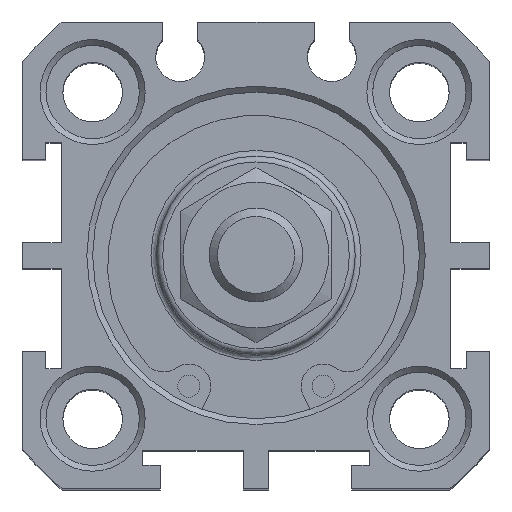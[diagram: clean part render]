
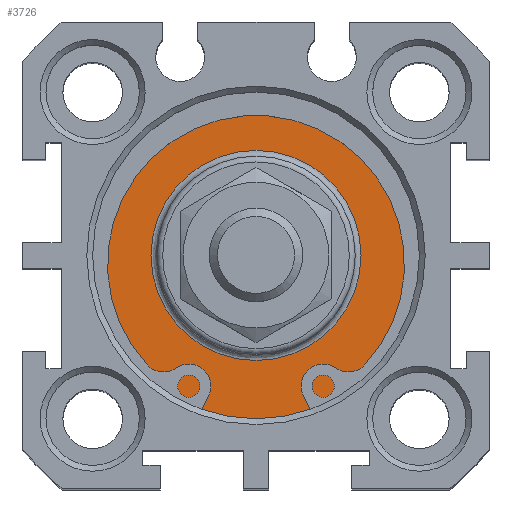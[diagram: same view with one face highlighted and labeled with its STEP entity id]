
A CAD part, top view. The second image highlights one B-rep face of the part: STEP entity #3726.
In plain terms, the highlighted planar face has unit normal (0, 0, 1).
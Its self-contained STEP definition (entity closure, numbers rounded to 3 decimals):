
#3675=CARTESIAN_POINT('',(0.12,10.914,58.3));
#3676=VERTEX_POINT('',#3675);
#3677=CARTESIAN_POINT('',(0.12,1.914,58.3));
#3678=DIRECTION('',(0.0,0.0,1.0));
#3679=DIRECTION('',(0.0,-1.0,0.0));
#3680=AXIS2_PLACEMENT_3D('',#3677,#3678,#3679);
#3681=CIRCLE('',#3680,9.);
#3682=EDGE_CURVE('',#3676,#3676,#3681,.T.);
#3707=CARTESIAN_POINT('',(0.12,13.164,58.3));
#3708=DIRECTION('',(0.0,0.0,1.0));
#3709=DIRECTION('',(1.0,0.0,0.0));
#3710=AXIS2_PLACEMENT_3D('',#3707,#3708,#3709);
#3711=PLANE('',#3710);
#3712=CARTESIAN_POINT('',(0.12,15.914,58.3));
#3713=VERTEX_POINT('',#3712);
#3714=CARTESIAN_POINT('',(0.12,1.914,58.3));
#3715=DIRECTION('',(0.0,0.0,-1.0));
#3716=DIRECTION('',(0.0,1.0,0.0));
#3717=AXIS2_PLACEMENT_3D('',#3714,#3715,#3716);
#3718=CIRCLE('',#3717,14.);
#3719=EDGE_CURVE('',#3713,#3713,#3718,.T.);
#3720=ORIENTED_EDGE('',*,*,#3719,.F.);
#3721=EDGE_LOOP('',(#3720));
#3722=FACE_OUTER_BOUND('',#3721,.T.);
#3723=ORIENTED_EDGE('',*,*,#3682,.F.);
#3724=EDGE_LOOP('',(#3723));
#3725=FACE_BOUND('',#3724,.T.);
#3726=ADVANCED_FACE('',(#3722,#3725),#3711,.T.);
